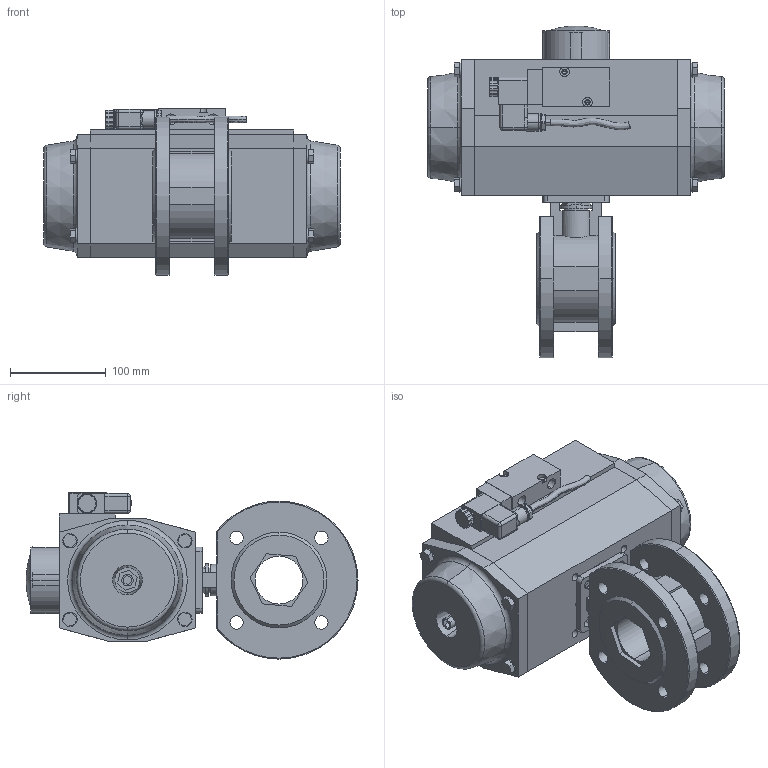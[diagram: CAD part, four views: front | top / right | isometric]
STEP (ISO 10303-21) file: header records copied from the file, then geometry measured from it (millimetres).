
FILE_DESCRIPTION (( 'STEP AP214' ), '1' );
FILE_NAME ('S15D DN50 AP4.5.STEP', '2012-04-24T08:16:01', ( 'Jan' ), ( '' ), 'SwSTEP 2.0', 'SolidWorks 2011', '' );
FILE_SCHEMA (( 'AUTOMOTIVE_DESIGN' ));
Length unit declared in the file: millimetre
Products named in the file (5): Spoel; S15D DN50 AP4.5; S15D KK DN50 PN16; VTB930-1_4 - 3.2; AP4.5_Default<As Machined>
Assembly tree (4 placements, depth 2):
  S15D DN50 AP4.5
    Spoel
    VTB930-1_4 - 3.2
    AP4.5_Default<As Machined>
    S15D KK DN50 PN16
Bounding box: 310 x 346.6 x 173.5 mm (x, y, z)
Volume: 5957068.5 mm3; surface area: 381772.8 mm2
Topology: 15 solids, 15 shells, 621 faces, 1539 edges, 957 vertices
Faces by surface type: plane 336, cylinder 197, cone 56, torus 22, sphere 6, bspline 4
Entity records: 20609 total; most frequent: CARTESIAN_POINT 3628, DIRECTION 3245, ORIENTED_EDGE 2990, EDGE_CURVE 1495, AXIS2_PLACEMENT_3D 1156, VERTEX_POINT 957, VECTOR 933, LINE 933
